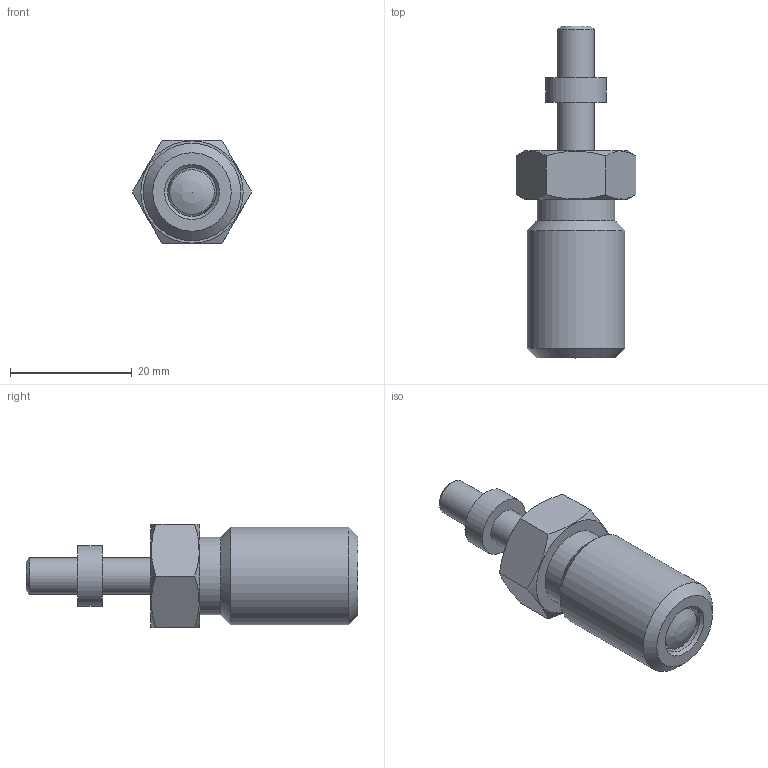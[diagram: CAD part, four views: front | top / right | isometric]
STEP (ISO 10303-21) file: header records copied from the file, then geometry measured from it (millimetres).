
FILE_DESCRIPTION( ( 'STEP AP203' ), '1' );
FILE_NAME( 'C:/Temp/Ganter_Step_05_03_2020/data/3_1/gn817/gn817_ni-rastbolzen/Stainless steel-Indexing plunger GN 817-8-8-G-NI (activated).stp', '2020-03-12T08:59:50', ( 'License CC BY-ND 4.0' ), ( 'CADENAS' ), ' ', 'PARTsolutions', ' ' );
FILE_SCHEMA( ( 'CONFIG_CONTROL_DESIGN' ) );
Length unit declared in the file: millimetre
Products named in the file (4): Stainless steel-Indexing plunger GN 817-8-8-G-NI (activated); _Stainless steel-Indexing plunger GN 817-8-8-G-NI (activated)-d2; _Stainless steel-Indexing plunger GN 817-8-8-B-NI-2; _Stainless Steel-Indexing plunger GN 817-8-8-G-NI-6
Assembly tree (3 placements, depth 2):
  Stainless steel-Indexing plunger GN 817-8-8-G-NI (activated)
    _Stainless steel-Indexing plunger GN 817-8-8-G-NI (activated)-d2
    _Stainless steel-Indexing plunger GN 817-8-8-B-NI-2
    _Stainless Steel-Indexing plunger GN 817-8-8-G-NI-6
Bounding box: 19.63 x 54.5 x 17 mm (x, y, z)
Volume: 7586.9 mm3; surface area: 4449.2 mm2
Topology: 2 solids, 2 shells, 33 faces, 64 edges, 40 vertices
Faces by surface type: plane 14, cone 8, cylinder 8, torus 2, sphere 1
Full cylindrical faces by diameter (mm): 6 x3, 8 x2, 10 x1, 12.8 x1, 16 x1
Entity records: 971 total; most frequent: CARTESIAN_POINT 243, DIRECTION 130, ORIENTED_EDGE 86, AXIS2_PLACEMENT_3D 62, EDGE_LOOP 58, FACE_OUTER_BOUND 43, EDGE_CURVE 43, VERTEX_POINT 38
